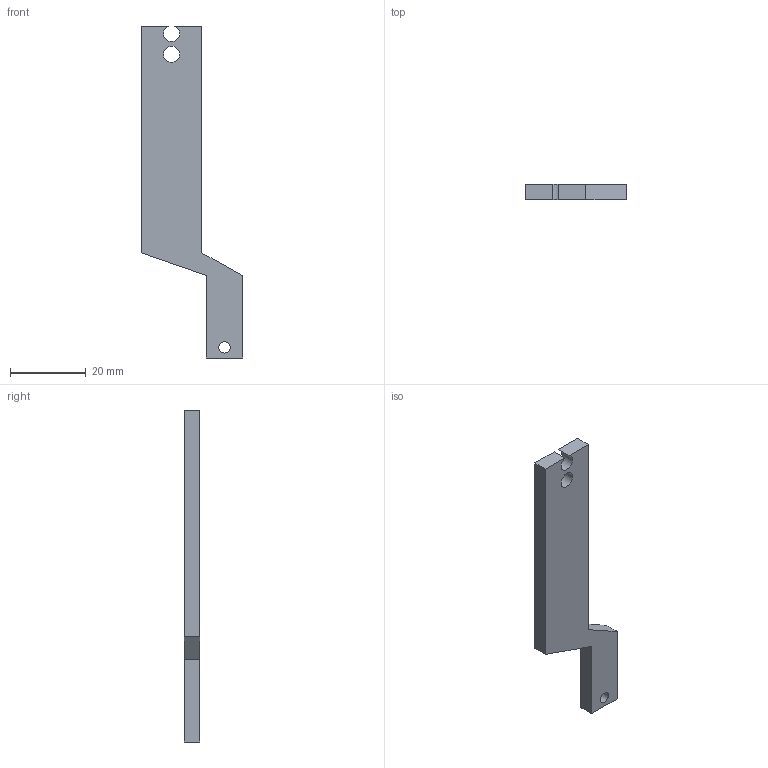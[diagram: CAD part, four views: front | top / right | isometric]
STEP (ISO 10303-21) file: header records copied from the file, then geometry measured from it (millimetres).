
FILE_DESCRIPTION(('Open CASCADE Model'),'2;1');
FILE_NAME('Open CASCADE Shape Model','2026-10-31T23:31:03',('Author'),( 'Open CASCADE'),'Open CASCADE STEP processor 7.9','Open CASCADE 7.9' ,'Unknown');
FILE_SCHEMA(('AUTOMOTIVE_DESIGN { 1 0 10303 214 1 1 1 1 }'));
Length unit declared in the file: millimetre
Products named in the file (1): Open CASCADE STEP translator 7.9 25
Bounding box: 26.8 x 4 x 87.8 mm (x, y, z)
Volume: 4840.5 mm3; surface area: 3432.3 mm2
Topology: 1 solids, 1 shells, 14 faces, 36 edges, 24 vertices
Faces by surface type: plane 11, cylinder 3
Full cylindrical faces by diameter (mm): 3 x1, 4.3 x1
Entity records: 930 total; most frequent: CARTESIAN_POINT 183, DIRECTION 138, LINE 96, VECTOR 96, ORIENTED_EDGE 72, PCURVE 72, DEFINITIONAL_REPRESENTATION 72, EDGE_CURVE 36
